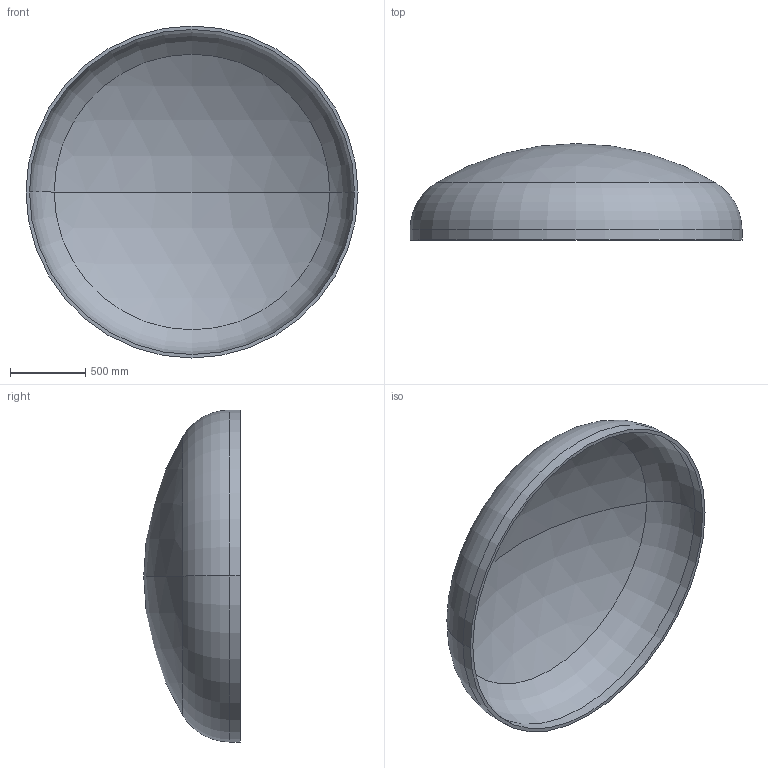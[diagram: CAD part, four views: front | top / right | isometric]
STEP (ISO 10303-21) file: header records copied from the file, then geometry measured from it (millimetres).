
FILE_DESCRIPTION (( 'STEP AP203' ), '1' );
FILE_NAME ('DIN 28013 Korbbogenform_-_Boden DIN 28013 - 2200 x 70 - I - s=23.step', '2016-07-01T14:26:01', ( '' ), ( '' ), 'SwSTEP 2.0', 'SolidWorks 2013', '' );
FILE_SCHEMA (( 'CONFIG_CONTROL_DESIGN' ));
Length unit declared in the file: millimetre
Products named in the file (1): DIN 28013 Korbbogenform_-_Boden DIN 28013 - 2200 x 70 - I - s=23
Bounding box: 2200 x 639.23 x 2200 mm (x, y, z)
Volume: 130521569.7 mm3; surface area: 11508108.2 mm2
Topology: 1 solids, 1 shells, 13 faces, 24 edges, 14 vertices
Faces by surface type: torus 4, cylinder 4, sphere 4, plane 1
Entity records: 407 total; most frequent: DIRECTION 72, CARTESIAN_POINT 52, ORIENTED_EDGE 48, AXIS2_PLACEMENT_3D 34, EDGE_CURVE 24, CIRCLE 20, EDGE_LOOP 14, VERTEX_POINT 14
